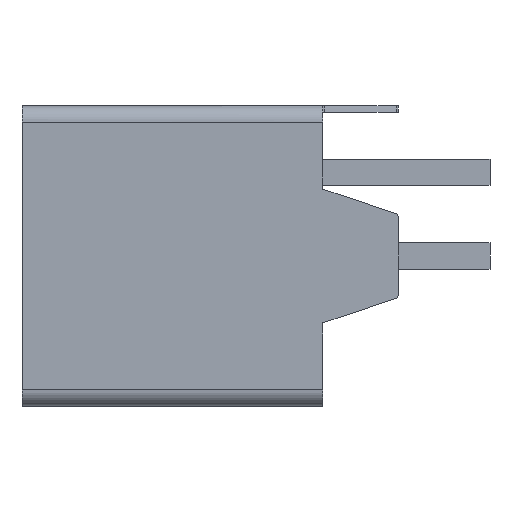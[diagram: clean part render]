
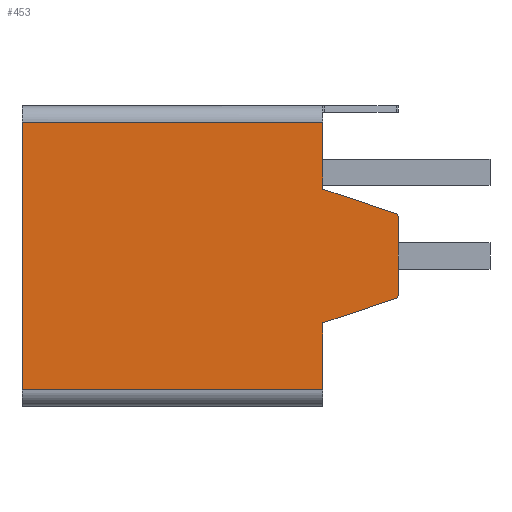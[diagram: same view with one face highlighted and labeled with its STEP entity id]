
A CAD part, left-side view. The second image highlights one B-rep face of the part: STEP entity #453.
In plain terms, the highlighted planar face has unit normal (-1, 0, 0).
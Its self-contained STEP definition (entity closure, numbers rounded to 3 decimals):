
#18 = DIRECTION ( 'NONE',  ( 0., 0., -1. ) ) ;
#29 = DIRECTION ( 'NONE',  ( 0., 0., 1. ) ) ;
#34 = ORIENTED_EDGE ( 'NONE', *, *, #616, .T. ) ;
#64 = EDGE_CURVE ( 'NONE', #115, #535, #1258, .T. ) ;
#97 = LINE ( 'NONE', #1316, #539 ) ;
#115 = VERTEX_POINT ( 'NONE', #384 ) ;
#144 = VERTEX_POINT ( 'NONE', #1314 ) ;
#154 = VECTOR ( 'NONE', #625, 1000. ) ;
#166 = CARTESIAN_POINT ( 'NONE',  ( -7., -6.75, 17. ) ) ;
#173 = FACE_OUTER_BOUND ( 'NONE', #355, .T. ) ;
#179 = CARTESIAN_POINT ( 'NONE',  ( -7., -11.113, 6.454 ) ) ;
#219 = CARTESIAN_POINT ( 'NONE',  ( -7., -11.25, 6.644 ) ) ;
#222 = CIRCLE ( 'NONE', #987, 0.2 ) ;
#225 = LINE ( 'NONE', #1090, #975 ) ;
#237 = LINE ( 'NONE', #1463, #774 ) ;
#258 = CARTESIAN_POINT ( 'NONE',  ( -7., -11.05, 6.644 ) ) ;
#271 = ORIENTED_EDGE ( 'NONE', *, *, #943, .F. ) ;
#298 = VECTOR ( 'NONE', #18, 1000. ) ;
#320 = DIRECTION ( 'NONE',  ( 0., 0., -1. ) ) ;
#324 = CIRCLE ( 'NONE', #1250, 0.2 ) ;
#355 = EDGE_LOOP ( 'NONE', ( #1325, #34, #1195, #436, #766, #588, #486, #985, #1205, #271, #1380 ) ) ;
#356 = VERTEX_POINT ( 'NONE', #729 ) ;
#364 = CARTESIAN_POINT ( 'NONE',  ( -7., -6.75, 0. ) ) ;
#384 = CARTESIAN_POINT ( 'NONE',  ( -7., 11.25, 17. ) ) ;
#392 = EDGE_CURVE ( 'NONE', #144, #904, #997, .T. ) ;
#436 = ORIENTED_EDGE ( 'NONE', *, *, #1050, .T. ) ;
#453 = ADVANCED_FACE ( 'NONE', ( #173 ), #919, .F. ) ;
#456 = DIRECTION ( 'NONE',  ( 0., 1., 0. ) ) ;
#463 = LINE ( 'NONE', #1443, #646 ) ;
#486 = ORIENTED_EDGE ( 'NONE', *, *, #1466, .F. ) ;
#535 = VERTEX_POINT ( 'NONE', #1381 ) ;
#539 = VECTOR ( 'NONE', #928, 1000. ) ;
#553 = VERTEX_POINT ( 'NONE', #1395 ) ;
#561 = DIRECTION ( 'NONE',  ( 0., -0.949, -0.316 ) ) ;
#567 = VECTOR ( 'NONE', #320, 1000. ) ;
#569 = CARTESIAN_POINT ( 'NONE',  ( -7., -6.75, 0. ) ) ;
#588 = ORIENTED_EDGE ( 'NONE', *, *, #1303, .T. ) ;
#602 = DIRECTION ( 'NONE',  ( 0., -1., 0. ) ) ;
#616 = EDGE_CURVE ( 'NONE', #1157, #115, #463, .T. ) ;
#625 = DIRECTION ( 'NONE',  ( 0., 0., 1. ) ) ;
#633 = VECTOR ( 'NONE', #1191, 1000. ) ;
#646 = VECTOR ( 'NONE', #456, 1000. ) ;
#673 = CARTESIAN_POINT ( 'NONE',  ( -7., -11.05, 11.356 ) ) ;
#700 = LINE ( 'NONE', #708, #633 ) ;
#701 = LINE ( 'NONE', #1082, #154 ) ;
#708 = CARTESIAN_POINT ( 'NONE',  ( -7., 0.825, 2.475 ) ) ;
#729 = CARTESIAN_POINT ( 'NONE',  ( -7., -6.75, 15. ) ) ;
#734 = VERTEX_POINT ( 'NONE', #219 ) ;
#740 = DIRECTION ( 'NONE',  ( 0., 0., 1. ) ) ;
#747 = DIRECTION ( 'NONE',  ( 0., 0., -1. ) ) ;
#766 = ORIENTED_EDGE ( 'NONE', *, *, #392, .F. ) ;
#774 = VECTOR ( 'NONE', #602, 1000. ) ;
#890 = CARTESIAN_POINT ( 'NONE',  ( -7., 11.25, 18. ) ) ;
#895 = EDGE_CURVE ( 'NONE', #356, #1251, #1323, .T. ) ;
#904 = VERTEX_POINT ( 'NONE', #1424 ) ;
#919 = PLANE ( 'NONE',  #1035 ) ;
#928 = DIRECTION ( 'NONE',  ( 0., 0., -1. ) ) ;
#930 = VERTEX_POINT ( 'NONE', #1061 ) ;
#943 = EDGE_CURVE ( 'NONE', #1251, #930, #225, .T. ) ;
#975 = VECTOR ( 'NONE', #561, 1000. ) ;
#985 = ORIENTED_EDGE ( 'NONE', *, *, #1012, .F. ) ;
#987 = AXIS2_PLACEMENT_3D ( 'NONE', #258, #1237, #740 ) ;
#997 = LINE ( 'NONE', #364, #298 ) ;
#1012 = EDGE_CURVE ( 'NONE', #553, #734, #97, .T. ) ;
#1014 = DIRECTION ( 'NONE',  ( 1., 0., 0. ) ) ;
#1022 = VECTOR ( 'NONE', #747, 1000. ) ;
#1025 = EDGE_CURVE ( 'NONE', #356, #1157, #701, .T. ) ;
#1033 = CARTESIAN_POINT ( 'NONE',  ( -7., -11.25, 18. ) ) ;
#1035 = AXIS2_PLACEMENT_3D ( 'NONE', #1033, #1014, #1261 ) ;
#1050 = EDGE_CURVE ( 'NONE', #535, #904, #237, .T. ) ;
#1061 = CARTESIAN_POINT ( 'NONE',  ( -7., -11.113, 11.546 ) ) ;
#1082 = CARTESIAN_POINT ( 'NONE',  ( -7., -6.75, 15. ) ) ;
#1090 = CARTESIAN_POINT ( 'NONE',  ( -7., -4.575, 13.725 ) ) ;
#1131 = CARTESIAN_POINT ( 'NONE',  ( -7., -6.75, 13. ) ) ;
#1157 = VERTEX_POINT ( 'NONE', #166 ) ;
#1191 = DIRECTION ( 'NONE',  ( 0., -0.949, 0.316 ) ) ;
#1195 = ORIENTED_EDGE ( 'NONE', *, *, #64, .T. ) ;
#1205 = ORIENTED_EDGE ( 'NONE', *, *, #1281, .T. ) ;
#1237 = DIRECTION ( 'NONE',  ( 1., 0., 0. ) ) ;
#1250 = AXIS2_PLACEMENT_3D ( 'NONE', #673, #1502, #29 ) ;
#1251 = VERTEX_POINT ( 'NONE', #1131 ) ;
#1258 = LINE ( 'NONE', #890, #1022 ) ;
#1261 = DIRECTION ( 'NONE',  ( 0., 0., -1. ) ) ;
#1276 = VERTEX_POINT ( 'NONE', #179 ) ;
#1281 = EDGE_CURVE ( 'NONE', #553, #930, #324, .T. ) ;
#1303 = EDGE_CURVE ( 'NONE', #144, #1276, #700, .T. ) ;
#1314 = CARTESIAN_POINT ( 'NONE',  ( -7., -6.75, 5. ) ) ;
#1316 = CARTESIAN_POINT ( 'NONE',  ( -7., -11.25, 18. ) ) ;
#1323 = LINE ( 'NONE', #569, #567 ) ;
#1325 = ORIENTED_EDGE ( 'NONE', *, *, #1025, .T. ) ;
#1380 = ORIENTED_EDGE ( 'NONE', *, *, #895, .F. ) ;
#1381 = CARTESIAN_POINT ( 'NONE',  ( -7., 11.25, 1. ) ) ;
#1395 = CARTESIAN_POINT ( 'NONE',  ( -7., -11.25, 11.356 ) ) ;
#1424 = CARTESIAN_POINT ( 'NONE',  ( -7., -6.75, 1. ) ) ;
#1443 = CARTESIAN_POINT ( 'NONE',  ( -7., -11.25, 17. ) ) ;
#1463 = CARTESIAN_POINT ( 'NONE',  ( -7., -6.75, 1. ) ) ;
#1466 = EDGE_CURVE ( 'NONE', #734, #1276, #222, .T. ) ;
#1502 = DIRECTION ( 'NONE',  ( -1., 0., 0. ) ) ;
